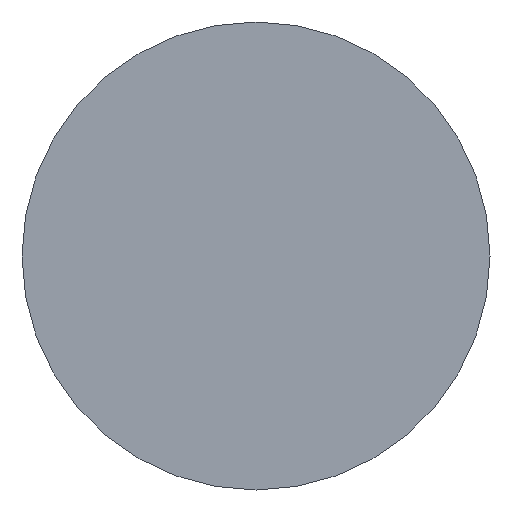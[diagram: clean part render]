
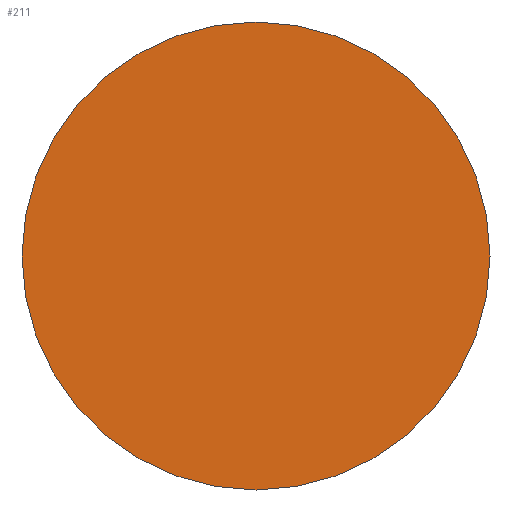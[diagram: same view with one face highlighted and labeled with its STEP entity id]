
A CAD part, front view. The second image highlights one B-rep face of the part: STEP entity #211.
In plain terms, the highlighted planar face has unit normal (0, -1, 0).
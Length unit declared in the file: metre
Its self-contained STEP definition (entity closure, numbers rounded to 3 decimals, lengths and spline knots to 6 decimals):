
#49=PLANE('',#243);
#65=ORIENTED_EDGE('',*,*,#117,.T.);
#117=EDGE_CURVE('',#144,#144,#159,.T.);
#144=VERTEX_POINT('',#341);
#159=CIRCLE('',#241,0.0125);
#170=EDGE_LOOP('',(#65));
#190=FACE_BOUND('',#170,.T.);
#211=ADVANCED_FACE('',(#190),#49,.T.);
#241=AXIS2_PLACEMENT_3D('',#340,#270,#271);
#243=AXIS2_PLACEMENT_3D('',#344,#274,#275);
#270=DIRECTION('',(0.,-1.,0.));
#271=DIRECTION('',(0.,0.,-1.));
#274=DIRECTION('',(0.,-1.,0.));
#275=DIRECTION('',(1.,0.,0.));
#340=CARTESIAN_POINT('',(0.,-0.33,0.));
#341=CARTESIAN_POINT('',(0.,-0.33,-0.0125));
#344=CARTESIAN_POINT('',(0.,-0.33,0.));
